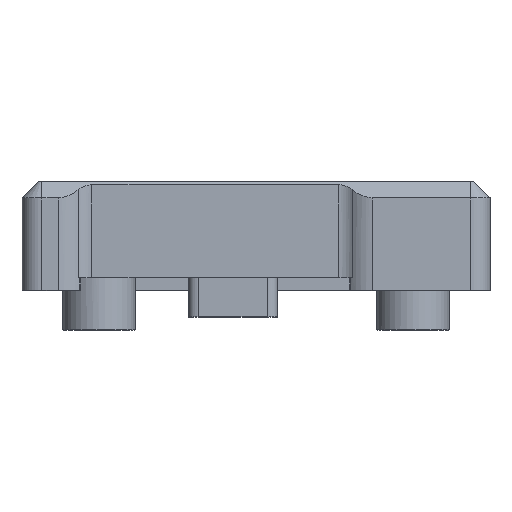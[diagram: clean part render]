
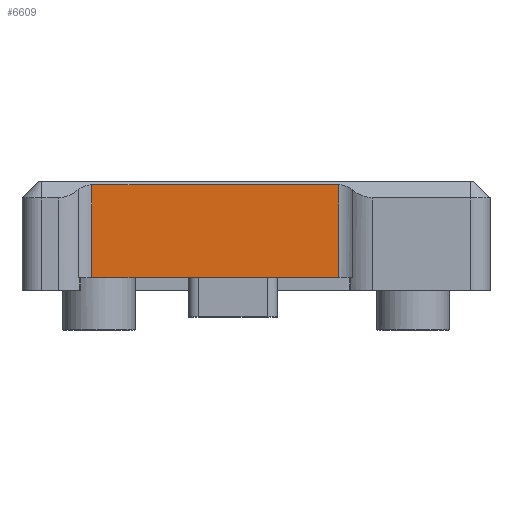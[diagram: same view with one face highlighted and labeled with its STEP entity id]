
A CAD part, front view. The second image highlights one B-rep face of the part: STEP entity #6609.
In plain terms, the highlighted planar face has unit normal (0, -1, 0).
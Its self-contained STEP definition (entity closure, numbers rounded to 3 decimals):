
#856=FACE_OUTER_BOUND('',#1239,.T.);
#1239=EDGE_LOOP('',(#5975,#5976,#5977,#5978));
#1272=LINE('',#9181,#1936);
#1910=LINE('',#11477,#2574);
#1911=LINE('',#11481,#2575);
#1912=LINE('',#11482,#2576);
#1936=VECTOR('',#7280,10.);
#2574=VECTOR('',#9028,10.);
#2575=VECTOR('',#9033,10.);
#2576=VECTOR('',#9034,10.);
#2607=VERTEX_POINT('',#9178);
#2608=VERTEX_POINT('',#9180);
#3176=VERTEX_POINT('',#11476);
#3177=VERTEX_POINT('',#11480);
#3207=EDGE_CURVE('',#2608,#2607,#1272,.T.);
#4125=EDGE_CURVE('',#2608,#3176,#1910,.T.);
#4127=EDGE_CURVE('',#2607,#3177,#1911,.T.);
#4128=EDGE_CURVE('',#3176,#3177,#1912,.T.);
#5975=ORIENTED_EDGE('',*,*,#4127,.T.);
#5976=ORIENTED_EDGE('',*,*,#4128,.F.);
#5977=ORIENTED_EDGE('',*,*,#4125,.F.);
#5978=ORIENTED_EDGE('',*,*,#3207,.T.);
#6252=PLANE('',#7204);
#6609=ADVANCED_FACE('',(#856),#6252,.F.);
#7204=AXIS2_PLACEMENT_3D('',#11479,#9031,#9032);
#7280=DIRECTION('',(1.,0.,0.));
#9028=DIRECTION('',(0.,0.,1.));
#9031=DIRECTION('center_axis',(0.,1.,0.));
#9032=DIRECTION('ref_axis',(-1.,0.,0.));
#9033=DIRECTION('',(0.,0.,1.));
#9034=DIRECTION('',(1.,0.,0.));
#9178=CARTESIAN_POINT('',(6.275,-26.75,4.744));
#9180=CARTESIAN_POINT('',(-12.45,-26.75,4.744));
#9181=CARTESIAN_POINT('',(3.208,-26.75,4.744));
#11476=CARTESIAN_POINT('',(-12.45,-26.75,11.794));
#11477=CARTESIAN_POINT('',(-12.45,-26.75,-3.956));
#11479=CARTESIAN_POINT('Origin',(6.275,-26.75,-3.956));
#11480=CARTESIAN_POINT('',(6.275,-26.75,11.794));
#11481=CARTESIAN_POINT('',(6.275,-26.75,-3.956));
#11482=CARTESIAN_POINT('',(-1.3,-26.75,11.794));
